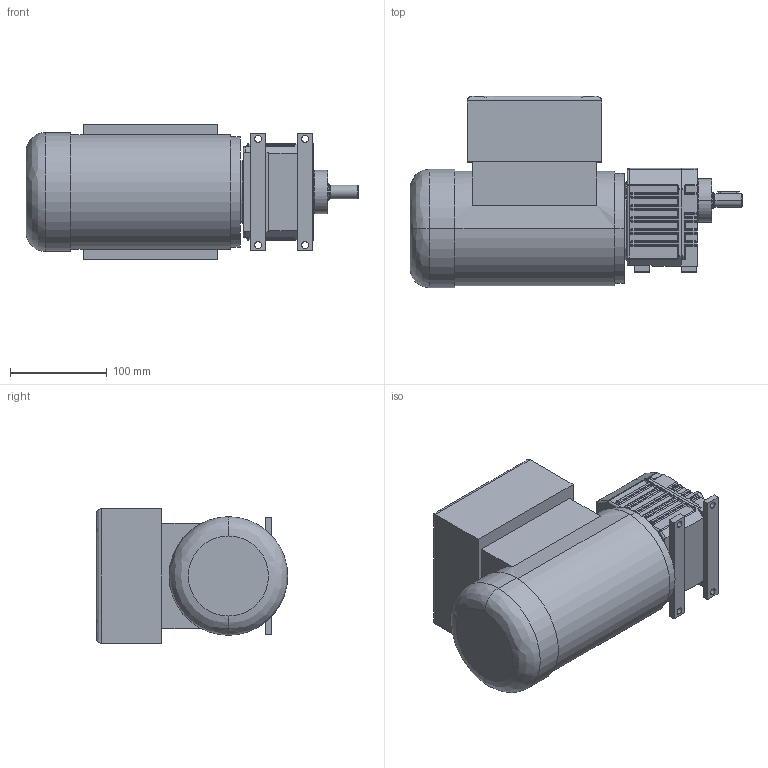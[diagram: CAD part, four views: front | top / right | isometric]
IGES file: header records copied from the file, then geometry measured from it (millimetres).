
Start section: Elysium IGES Interface
Global section: file name: E:\000 CAD\122 G2_Serie\02 Massbild\G239_G269_BF_B3_B14_Motor_Bgr_63_EEXDe.igs; native system: SolidDesigner 15.50A  21-Sep-2007; preprocessor: OneSpace IGES_3D V2.2; author: Unknown; organization: Unknown; date: 20071018.130551; units: millimetre
Bounding box: 344 x 198.5 x 139 mm (x, y, z)
Volume: 4809646.5 mm3; surface area: 214450.4 mm2
Topology: 1 solids, 1 shells, 698 faces, 1675 edges, 911 vertices
Faces by surface type: bspline 698
